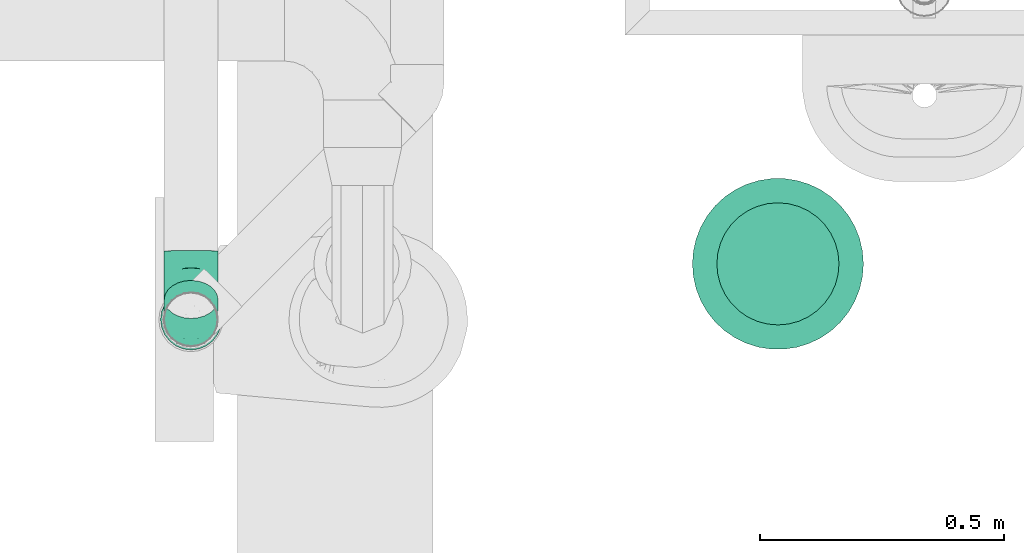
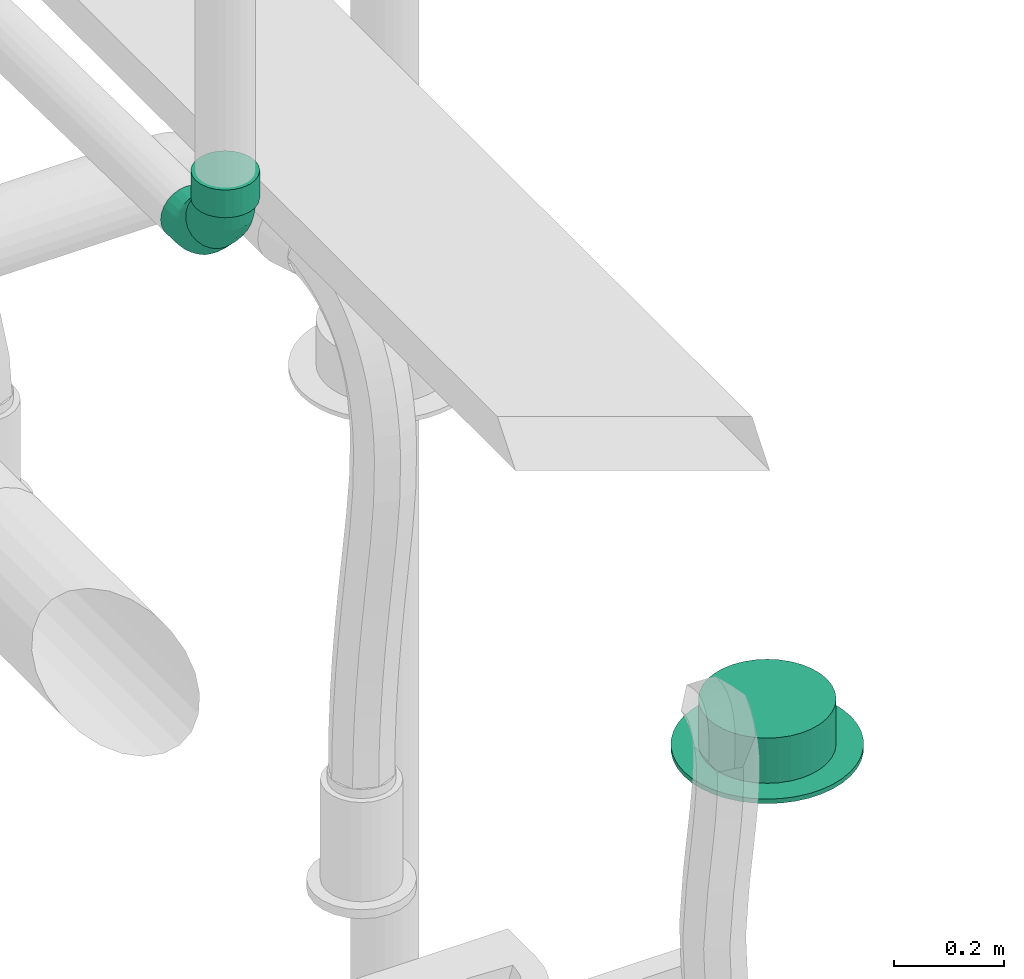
# One storey, part 123 of 374: 3 flow fittings, 1 distribution element.
"""IFC2X3 building model written with IfcOpenShell, lengths in metres."""

from ifc_helpers import new_model, si_unit, direction, frame, frame_2d, origin, place, context, subcontext, project, spatial, circle, extrude, open_shell, surface_model, source, transform, mapped, element, save


model = new_model("IFC2X3")

# Units and contexts
model_context = context("Model", 3, precision=1e-05, world=origin(), true_north=direction((-0.4480736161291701, 0.8939966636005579)))
body_context = subcontext(model_context, "Body", "Model", "MODEL_VIEW")
ifc_project = project(units=[si_unit("LENGTHUNIT", "METRE"), si_unit("AREAUNIT", "SQUARE_METRE"), si_unit("VOLUMEUNIT", "CUBIC_METRE"), si_unit("PLANEANGLEUNIT", "RADIAN"), si_unit("THERMODYNAMICTEMPERATUREUNIT", "KELVIN"), si_unit("MASSUNIT", "GRAM", prefix="KILO"), si_unit("TIMEUNIT", "SECOND")], contexts=[model_context])

# Site, building, storey
site_placement = place(None, origin())
site = spatial("IfcSite", under=ifc_project, at=site_placement, Name="Site 1", CompositionType="ELEMENT")
building_placement = place(site_placement, origin())
building = spatial("IfcBuilding", under=site, at=building_placement, Name="Undefined", CompositionType="ELEMENT")
storey_placement = place(building_placement, origin())
storey = spatial("IfcBuildingStorey", under=building, at=storey_placement, Name="Rez de chauss\x8ee", CompositionType="ELEMENT", Elevation=0.0)

# Flow fittings
shared_shape_1 = source(origin(), body_context, "Body", "SurfaceModel", [
    surface_model("IfcFaceBasedSurfaceModel", [(0.0, 0.0163157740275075, 0.0), (0.0, 0.0, 0.0), (0.06130000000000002, 0.0, 0.0), (0.06130000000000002, 0.0163157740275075, 0.0), (0.0, -0.015759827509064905, -0.004222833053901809), (0.06130000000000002, -0.015759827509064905, -0.004222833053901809), (0.0, -0.029889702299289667, -0.012380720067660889), (0.06130000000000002, -0.029889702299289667, -0.012380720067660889), (0.0, -0.04142669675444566, -0.02391771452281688), (0.06130000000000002, -0.04142669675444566, -0.02391771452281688), (0.0, -0.04958458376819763, -0.038047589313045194), (0.06130000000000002, -0.04958458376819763, -0.038047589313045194), (0.0, -0.053807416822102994, -0.053807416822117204), (0.06130000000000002, -0.053807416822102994, -0.053807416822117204), (0.0, -0.053807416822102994, -0.07012319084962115), (0.06130000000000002, -0.053807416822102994, -0.07012319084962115), (0.0, -0.04958458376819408, -0.08588301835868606), (0.06130000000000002, -0.04958458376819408, -0.08588301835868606), (0.0, -0.04142669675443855, -0.10001289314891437), (0.06130000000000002, -0.04142669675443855, -0.10001289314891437), (0.0, -0.02988970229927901, -0.11154988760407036), (0.06130000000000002, -0.02988970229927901, -0.11154988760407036), (0.0, -0.015759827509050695, -0.11970777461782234), (0.06130000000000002, -0.015759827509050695, -0.11970777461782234), (0.0, 1.4210854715e-14, -0.12393060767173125), (0.06130000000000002, 1.4210854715e-14, -0.12393060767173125), (0.0, 0.016315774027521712, -0.12393060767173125), (0.06130000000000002, 0.016315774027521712, -0.12393060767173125), (0.0, 0.03207560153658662, -0.11970777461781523), (0.06130000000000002, 0.03207560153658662, -0.11970777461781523), (0.0, 0.04620547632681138, -0.11154988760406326), (0.06130000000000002, 0.04620547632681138, -0.11154988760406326), (0.0, 0.05774247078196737, -0.10001289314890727), (0.06130000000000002, 0.05774247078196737, -0.10001289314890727), (0.0, 0.06590035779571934, -0.08588301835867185), (0.06130000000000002, 0.06590035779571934, -0.08588301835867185), (0.0, 0.0701231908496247, -0.07012319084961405), (0.06130000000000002, 0.0701231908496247, -0.07012319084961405), (0.0, 0.0701231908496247, -0.05380741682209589), (0.06130000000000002, 0.0701231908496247, -0.05380741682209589), (0.0, 0.06590035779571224, -0.03804758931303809), (0.06130000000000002, 0.06590035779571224, -0.03804758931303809), (0.0, 0.05774247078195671, -0.023917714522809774), (0.06130000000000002, 0.05774247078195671, -0.023917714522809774), (0.0, 0.04620547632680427, -0.012380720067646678), (0.06130000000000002, 0.04620547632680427, -0.012380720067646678), (0.0, 0.03207560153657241, -0.004222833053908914), (0.06130000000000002, 0.03207560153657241, -0.004222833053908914), (0.0, 0.00815788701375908, -0.06196530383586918), (0.06130000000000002, 0.00815788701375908, -0.06196530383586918)], [open_shell([[[0, 1, 2, 3]], [[1, 4, 5, 2]], [[4, 6, 7, 5]], [[6, 8, 9, 7]], [[8, 10, 11, 9]], [[10, 12, 13, 11]], [[12, 14, 15, 13]], [[14, 16, 17, 15]], [[16, 18, 19, 17]], [[18, 20, 21, 19]], [[20, 22, 23, 21]], [[22, 24, 25, 23]], [[24, 26, 27, 25]], [[26, 28, 29, 27]], [[28, 30, 31, 29]], [[30, 32, 33, 31]], [[32, 34, 35, 33]], [[34, 36, 37, 35]], [[36, 38, 39, 37]], [[38, 40, 41, 39]], [[40, 42, 43, 41]], [[42, 44, 45, 43]], [[44, 46, 47, 45]], [[46, 0, 3, 47]], [[48, 1, 0]], [[48, 4, 1]], [[48, 6, 4]], [[48, 8, 6]], [[48, 10, 8]], [[48, 12, 10]], [[48, 14, 12]], [[48, 16, 14]], [[48, 18, 16]], [[48, 20, 18]], [[48, 22, 20]], [[48, 24, 22]], [[48, 26, 24]], [[48, 28, 26]], [[48, 30, 28]], [[48, 32, 30]], [[48, 34, 32]], [[48, 36, 34]], [[48, 38, 36]], [[48, 40, 38]], [[48, 42, 40]], [[48, 44, 42]], [[48, 46, 44]], [[48, 0, 46]], [[49, 47, 3]], [[49, 45, 47]], [[49, 43, 45]], [[49, 41, 43]], [[49, 39, 41]], [[49, 37, 39]], [[49, 35, 37]], [[49, 33, 35]], [[49, 31, 33]], [[49, 29, 31]], [[49, 27, 29]], [[49, 25, 27]], [[49, 23, 25]], [[49, 21, 23]], [[49, 19, 21]], [[49, 17, 19]], [[49, 15, 17]], [[49, 13, 15]], [[49, 11, 13]], [[49, 9, 11]], [[49, 7, 9]], [[49, 5, 7]], [[49, 2, 5]], [[49, 3, 2]]])]),
])
flow_fitting_1_placement = place(storey_placement, origin())
element("IfcFlowFitting", 1, at=flow_fitting_1_placement, inside=storey, Name="PE-HD manchon électro soudable", ObjectType="PE-HD manchon électro soudable", context=body_context, shape_type="MappedRepresentation", body=[
    mapped(shared_shape_1, transform((57.13437036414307, 11.327176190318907, 4.198363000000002), x_axis=(0.0, 0.0, 1.0), y_axis=(0.13052619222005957, -0.9914448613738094, 0.0), z_axis=(0.9914448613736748, 0.13052619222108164, 0.0))),
])
shared_shape_2 = source(origin(), body_context, "Body", "SurfaceModel", [
    surface_model("IfcFaceBasedSurfaceModel", [(0.0, 0.014357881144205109, -3.552713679e-15), (0.0, 0.0, 0.0), (0.03509999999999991, 1.776356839e-15, -1.776356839e-15), (0.03509999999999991, 0.014357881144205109, 0.0), (0.0, -0.01386864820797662, -0.0037160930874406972), (0.035100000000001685, -0.01386864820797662, -0.003716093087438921), (0.0, -0.026302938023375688, -0.010895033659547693), (0.03509999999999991, -0.026302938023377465, -0.010895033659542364), (0.0, -0.03645549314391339, -0.021047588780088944), (0.035100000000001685, -0.03645549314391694, -0.021047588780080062), (0.0, -0.04363443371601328, -0.033481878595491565), (0.035100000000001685, -0.043634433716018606, -0.03348187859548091), (0.0, -0.04735052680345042, -0.04735052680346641), (0.03510000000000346, -0.04735052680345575, -0.04735052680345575), (0.0, -0.04735052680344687, -0.06170840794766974), (0.035100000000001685, -0.047350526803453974, -0.061708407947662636), (0.0, -0.04363443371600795, -0.07557705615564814), (0.035100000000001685, -0.04363443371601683, -0.07557705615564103), (0.0, -0.03645549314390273, -0.08801134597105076), (0.035100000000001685, -0.03645549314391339, -0.08801134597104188), (0.0, -0.026302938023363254, -0.0981639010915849), (0.03510000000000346, -0.026302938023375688, -0.09816390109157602), (0.0, -0.013868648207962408, -0.1053428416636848), (0.03510000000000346, -0.013868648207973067, -0.10534284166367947), (0.0, 1.5987211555e-14, -0.10905893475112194), (0.03510000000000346, 5.329070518e-15, -0.10905893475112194), (0.0, 0.014357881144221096, -0.10905893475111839), (0.035100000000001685, 0.014357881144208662, -0.10905893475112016), (0.0, 0.028226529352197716, -0.10534284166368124), (0.03510000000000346, 0.02822652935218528, -0.10534284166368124), (0.0, 0.040660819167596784, -0.0981639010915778), (0.03510000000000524, 0.040660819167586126, -0.09816390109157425), (0.0, 0.05081337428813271, -0.08801134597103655), (0.035100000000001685, 0.050813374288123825, -0.08801134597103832), (0.0, 0.05799231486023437, -0.07557705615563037), (0.035100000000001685, 0.05799231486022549, -0.07557705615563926), (0.0, 0.06170840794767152, -0.06170840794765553), (0.035100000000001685, 0.06170840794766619, -0.06170840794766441), (0.0, 0.061708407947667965, -0.0473505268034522), (0.035100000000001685, 0.061708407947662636, -0.0473505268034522), (0.0, 0.05799231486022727, -0.033481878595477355), (0.03510000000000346, 0.057992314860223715, -0.033481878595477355), (0.0, 0.050813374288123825, -0.021047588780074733), (0.035100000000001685, 0.05081337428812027, -0.021047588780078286), (0.0, 0.04066081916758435, -0.010895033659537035), (0.035100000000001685, 0.040660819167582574, -0.010895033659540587), (0.0, 0.028226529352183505, -0.0037160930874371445), (0.035100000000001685, 0.028226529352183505, -0.003716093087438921), (0.06308504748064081, -0.04369774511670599, -0.06218930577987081), (0.06357009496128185, -0.04363443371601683, -0.04783975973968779), (0.08916296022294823, -0.03298833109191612, -0.0635992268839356), (0.09010000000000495, -0.032739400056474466, -0.04927411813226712), (0.11155657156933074, -0.015952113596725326, -0.06584208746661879), (0.11288174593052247, -0.015407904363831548, -0.051555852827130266), (0.061662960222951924, -0.040167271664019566, -0.07603351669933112), (0.08641569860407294, -0.030002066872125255, -0.07737179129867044), (0.10767135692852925, -0.013831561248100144, -0.07950067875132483), (0.05940074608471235, -0.03328360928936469, -0.08842893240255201), (0.08204543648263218, -0.023984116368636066, -0.0896532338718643), (0.10149087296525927, -0.009190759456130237, -0.09160081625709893), (0.05645257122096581, -0.02351586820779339, -0.09853082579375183), (0.07635000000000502, -0.015344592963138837, -0.09960659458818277), (0.09343630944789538, -0.0023459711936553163, -0.10131789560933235), (0.053019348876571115, -0.011529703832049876, -0.1056507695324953), (0.06971752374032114, -0.004672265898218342, -0.10655356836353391), (0.08405657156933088, 0.006236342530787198, -0.10798971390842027), (0.049335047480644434, 0.0018580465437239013, -0.10930355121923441), (0.06260000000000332, 0.007305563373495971, -0.1100207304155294), (0.07399087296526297, 0.015971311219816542, -0.11116159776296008), (0.0456507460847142, 0.015735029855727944, -0.1092402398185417), (0.05548247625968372, 0.01977262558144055, -0.10977179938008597), (0.0639251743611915, 0.0261955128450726, -0.11061738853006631), (0.042217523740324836, 0.029155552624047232, -0.10546514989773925), (0.04885000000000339, 0.03187931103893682, -0.10582373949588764), (0.05454543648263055, 0.03621218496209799, -0.10639417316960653), (0.03926934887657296, 0.04120502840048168, -0.09823554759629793), (0.043154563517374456, 0.04280056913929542, -0.09844560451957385), (0.046490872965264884, 0.045338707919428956, -0.09877975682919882), (0.03700713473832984, 0.05106230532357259, -0.08804411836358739), (0.03878430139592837, 0.05179213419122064, -0.08814020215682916), (0.04031038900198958, 0.052953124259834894, -0.08829304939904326), (0.03558504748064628, 0.058055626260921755, -0.07558539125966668), (0.03603703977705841, 0.0582412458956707, -0.07560982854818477), (0.03642517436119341, 0.05853652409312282, -0.07564870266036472), (0.035585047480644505, 0.0617717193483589, -0.047358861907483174), (0.036037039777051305, 0.0619573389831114, -0.04738329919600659), (0.03642517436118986, 0.06225261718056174, -0.04742217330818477), (0.037007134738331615, 0.05824124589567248, -0.03351465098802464), (0.03878430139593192, 0.05897107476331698, -0.03361073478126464), (0.04031038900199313, 0.06013206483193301, -0.03376358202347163), (0.039269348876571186, 0.05135758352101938, -0.02111923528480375), (0.04315456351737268, 0.05295312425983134, -0.021329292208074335), (0.046490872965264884, 0.05549126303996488, -0.021663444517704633), (0.04221752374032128, 0.041589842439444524, -0.01101734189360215), (0.04884999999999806, 0.044313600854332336, -0.011375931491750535), (0.054545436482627, 0.04864647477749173, -0.01194636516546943), (0.04565074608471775, 0.029603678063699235, -0.003897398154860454), (0.05548247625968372, 0.03364127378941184, -0.004428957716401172), (0.0639251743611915, 0.040064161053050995, -0.005274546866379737), (0.04933504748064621, 0.016215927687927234, -0.0002446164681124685), (0.06260000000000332, 0.021663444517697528, -0.000961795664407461), (0.07399087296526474, 0.030329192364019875, -0.002102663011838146), (0.05301934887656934, 0.0023389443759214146, -0.0003079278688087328), (0.06971752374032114, 0.009196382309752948, -0.0012107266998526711), (0.08405657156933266, 0.020104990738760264, -0.0026468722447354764), (0.05645257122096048, -0.011081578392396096, -0.004083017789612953), (0.0763499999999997, -0.002910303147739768, -0.0051587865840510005), (0.09343630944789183, 0.010088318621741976, -0.006870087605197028), (0.059400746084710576, -0.023131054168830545, -0.011312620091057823), (0.08204543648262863, -0.01383156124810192, -0.012536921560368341), (0.1014908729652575, 0.0009617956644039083, -0.01448450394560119), (0.0616629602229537, -0.032988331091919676, -0.021504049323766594), (0.0864156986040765, -0.022823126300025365, -0.022842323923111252), (0.10767135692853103, -0.006652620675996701, -0.024971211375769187), (0.06308504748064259, -0.03998165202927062, -0.033962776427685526), (0.08916296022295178, -0.02927223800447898, -0.035372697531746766), (0.1115565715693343, -0.012236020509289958, -0.03761555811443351), (0.1363760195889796, 0.008655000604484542, -0.06908167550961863), (0.13770119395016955, 0.00919920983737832, -0.05479544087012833), (0.13249080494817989, 0.0107755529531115, -0.08274026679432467), (0.12631032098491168, 0.01541635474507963, -0.09484040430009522), (0.11825575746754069, 0.02226114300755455, -0.10455748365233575), (0.1088760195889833, 0.03084345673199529, -0.11122930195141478), (0.09881032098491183, 0.04057842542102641, -0.11440118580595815), (0.08874462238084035, 0.05080262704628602, -0.11385697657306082), (0.07936488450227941, 0.06081929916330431, -0.10963376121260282), (0.07131032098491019, 0.0699458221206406, -0.10201934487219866), (0.06512983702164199, 0.07756023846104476, -0.09153263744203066), (0.06124462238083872, 0.08314363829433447, -0.07888829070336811), (0.059919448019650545, 0.08631552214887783, -0.0649479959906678), (0.06124462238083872, 0.08685973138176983, -0.05066176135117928), (0.06512983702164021, 0.08473917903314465, -0.03700317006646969), (0.07131032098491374, 0.08009837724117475, -0.024903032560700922), (0.07936488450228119, 0.07325358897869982, -0.015185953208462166), (0.0887446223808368, 0.06467127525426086, -0.008514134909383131), (0.09881032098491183, 0.05493630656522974, -0.005342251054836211), (0.10887601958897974, 0.04471210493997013, -0.0058864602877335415), (0.11825575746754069, 0.03469543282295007, -0.010109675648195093), (0.1263103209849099, 0.02556890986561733, -0.017724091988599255), (0.13249080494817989, 0.017954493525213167, -0.0282107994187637), (0.13637601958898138, 0.012371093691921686, -0.04085514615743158)], [open_shell([[[0, 1, 2, 3]], [[1, 4, 5, 2]], [[4, 6, 7, 5]], [[6, 8, 9, 7]], [[8, 10, 11, 9]], [[10, 12, 13, 11]], [[12, 14, 15, 13]], [[14, 16, 17, 15]], [[16, 18, 19, 17]], [[18, 20, 21, 19]], [[20, 22, 23, 21]], [[22, 24, 25, 23]], [[24, 26, 27, 25]], [[26, 28, 29, 27]], [[28, 30, 31, 29]], [[30, 32, 33, 31]], [[32, 34, 35, 33]], [[34, 36, 37, 35]], [[36, 38, 39, 37]], [[38, 40, 41, 39]], [[40, 42, 43, 41]], [[42, 44, 45, 43]], [[44, 46, 47, 45]], [[46, 0, 3, 47]], [[13, 15, 48, 49]], [[49, 48, 50, 51]], [[51, 50, 52, 53]], [[15, 17, 54, 48]], [[48, 54, 55, 50]], [[50, 55, 56, 52]], [[17, 19, 57, 54]], [[54, 57, 58, 55]], [[55, 58, 59, 56]], [[19, 21, 60, 57]], [[57, 60, 61, 58]], [[58, 61, 62, 59]], [[21, 23, 63, 60]], [[60, 63, 64, 61]], [[61, 64, 65, 62]], [[23, 25, 66, 63]], [[63, 66, 67, 64]], [[64, 67, 68, 65]], [[25, 27, 69, 66]], [[66, 69, 70, 67]], [[67, 70, 71, 68]], [[27, 29, 72, 69]], [[69, 72, 73, 70]], [[70, 73, 74, 71]], [[29, 31, 75, 72]], [[72, 75, 76, 73]], [[73, 76, 77, 74]], [[31, 33, 78, 75]], [[75, 78, 79, 76]], [[76, 79, 80, 77]], [[33, 35, 81, 78]], [[78, 81, 82, 79]], [[79, 82, 83, 80]], [[35, 37, 81]], [[81, 37, 82]], [[82, 37, 83]], [[37, 39, 84]], [[37, 84, 85]], [[37, 85, 86]], [[39, 41, 87, 84]], [[84, 87, 88, 85]], [[85, 88, 89, 86]], [[41, 43, 90, 87]], [[87, 90, 91, 88]], [[88, 91, 92, 89]], [[43, 45, 93, 90]], [[90, 93, 94, 91]], [[91, 94, 95, 92]], [[45, 47, 96, 93]], [[93, 96, 97, 94]], [[94, 97, 98, 95]], [[47, 3, 99, 96]], [[96, 99, 100, 97]], [[97, 100, 101, 98]], [[3, 2, 102, 99]], [[99, 102, 103, 100]], [[100, 103, 104, 101]], [[2, 5, 105, 102]], [[102, 105, 106, 103]], [[103, 106, 107, 104]], [[5, 7, 108, 105]], [[105, 108, 109, 106]], [[106, 109, 110, 107]], [[7, 9, 111, 108]], [[108, 111, 112, 109]], [[109, 112, 113, 110]], [[9, 11, 114, 111]], [[111, 114, 115, 112]], [[112, 115, 116, 113]], [[11, 13, 49, 114]], [[114, 49, 51, 115]], [[115, 51, 53, 116]], [[53, 52, 117, 118]], [[52, 56, 119, 117]], [[56, 59, 120, 119]], [[59, 62, 121, 120]], [[62, 65, 122, 121]], [[65, 68, 123, 122]], [[68, 71, 124, 123]], [[71, 74, 125, 124]], [[74, 77, 126, 125]], [[77, 80, 127, 126]], [[80, 83, 128, 127]], [[83, 37, 129, 128]], [[37, 86, 130, 129]], [[86, 89, 131, 130]], [[89, 92, 132, 131]], [[92, 95, 133, 132]], [[95, 98, 134, 133]], [[98, 101, 135, 134]], [[101, 104, 136, 135]], [[104, 107, 137, 136]], [[107, 110, 138, 137]], [[110, 113, 139, 138]], [[113, 116, 140, 139]], [[116, 53, 118, 140]]])]),
])
flow_fitting_2_placement = place(storey_placement, origin())
element("IfcFlowFitting", 2, at=flow_fitting_2_placement, inside=storey, Name="PE-HD coude 45°", ObjectType="PE-HD coude 45°", context=body_context, shape_type="MappedRepresentation", body=[
    mapped(shared_shape_2, transform((57.0208740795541, 11.341862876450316, 4.116486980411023), x_axis=(-8.6595606e-17, -0.7071067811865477, 0.7071067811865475), y_axis=(-0.13052619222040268, 0.701057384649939, 0.7010573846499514), z_axis=(-0.9914448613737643, -0.09229595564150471, -0.09229595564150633))),
])
shared_shape_3 = source(origin(), body_context, "Body", "SurfaceModel", [
    surface_model("IfcFaceBasedSurfaceModel", [(0.0, 0.014357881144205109, -3.552713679e-15), (0.0, 0.0, 0.0), (0.0359000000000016, 1.776356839e-15, 0.0), (0.035900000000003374, 0.014357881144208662, 0.0), (0.0, -0.01386864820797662, -0.0037160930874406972), (0.035900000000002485, -0.01386864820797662, -0.003716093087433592), (0.0, -0.026302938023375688, -0.010895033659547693), (0.0359000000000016, -0.026302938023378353, -0.010895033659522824), (0.0, -0.03645549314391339, -0.021047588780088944), (0.035900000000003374, -0.03645549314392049, -0.021047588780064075), (0.0, -0.04363443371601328, -0.033481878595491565), (0.0359000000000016, -0.04363443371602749, -0.03348187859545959), (0.0, -0.04735052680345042, -0.04735052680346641), (0.035900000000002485, -0.04735052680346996, -0.04735052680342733), (0.0, -0.04735052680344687, -0.06170840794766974), (0.0359000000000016, -0.04735052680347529, -0.06170840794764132), (0.0, -0.04363443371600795, -0.07557705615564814), (0.035900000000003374, -0.0436344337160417, -0.07557705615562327), (0.0, -0.03645549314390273, -0.08801134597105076), (0.0359000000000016, -0.03645549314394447, -0.08801134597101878), (0.0, -0.026302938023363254, -0.0981639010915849), (0.035900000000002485, -0.02630293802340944, -0.09816390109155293), (0.0, -0.013868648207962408, -0.1053428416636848), (0.0359000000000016, -0.013868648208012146, -0.10534284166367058), (0.0, 1.5987211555e-14, -0.10905893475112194), (0.035900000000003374, -3.5527136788e-14, -0.10905893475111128), (0.0, 0.014357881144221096, -0.10905893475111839), (0.03590000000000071, 0.014357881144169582, -0.10905893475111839), (0.0, 0.028226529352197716, -0.10534284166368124), (0.0359000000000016, 0.028226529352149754, -0.1053428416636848), (0.0, 0.040660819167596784, -0.0981639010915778), (0.0359000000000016, 0.0406608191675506, -0.09816390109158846), (0.0, 0.05081337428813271, -0.08801134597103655), (0.0359000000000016, 0.05081337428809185, -0.08801134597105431), (0.0, 0.05799231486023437, -0.07557705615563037), (0.0359000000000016, 0.05799231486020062, -0.07557705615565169), (0.0, 0.06170840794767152, -0.06170840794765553), (0.035900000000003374, 0.061708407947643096, -0.06170840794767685), (0.0, 0.061708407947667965, -0.0473505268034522), (0.0359000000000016, 0.061708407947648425, -0.04735052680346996), (0.0, 0.05799231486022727, -0.033481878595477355), (0.0359000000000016, 0.05799231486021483, -0.03348187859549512), (0.0, 0.050813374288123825, -0.021047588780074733), (0.0359000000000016, 0.05081337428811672, -0.021047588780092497), (0.0, 0.04066081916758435, -0.010895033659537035), (0.0359000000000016, 0.040660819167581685, -0.010895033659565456), (0.0, 0.028226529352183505, -0.0037160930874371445), (0.03590000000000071, 0.028226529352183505, -0.0037160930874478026), (0.06297256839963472, -0.04393592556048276, -0.06215794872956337), (0.06344180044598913, -0.04387674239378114, -0.04780785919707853), (0.08832048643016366, -0.033909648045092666, -0.06347793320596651), (0.08922905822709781, -0.03367668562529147, -0.049150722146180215), (0.11032897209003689, -0.017910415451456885, -0.06558427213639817), (0.11161900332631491, -0.01740014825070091, -0.051293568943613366), (0.061596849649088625, -0.04039334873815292, -0.07600375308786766), (0.0856566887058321, -0.03087656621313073, -0.07725666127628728), (0.10654679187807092, -0.015690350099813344, -0.07925596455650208), (0.05940839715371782, -0.033490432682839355, -0.08840170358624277), (0.08141919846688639, -0.0247841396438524, -0.08954790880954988), (0.10053021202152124, -0.010891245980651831, -0.09137694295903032), (0.05655635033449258, -0.02369759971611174, -0.09850690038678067), (0.07589679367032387, -0.016047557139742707, -0.09951404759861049), (0.0926892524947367, -0.003840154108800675, -0.10112118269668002), (0.05323507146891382, -0.01168221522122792, -0.10563069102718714), (0.06946581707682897, -0.005262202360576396, -0.10647590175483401), (0.08355826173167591, 0.0049824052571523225, -0.10782462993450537), (0.04967090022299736, 0.0017368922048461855, -0.10928760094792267), (0.0625645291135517, 0.006836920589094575, -0.10995903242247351), (0.07375950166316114, 0.014975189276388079, -0.11103045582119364), (0.04610672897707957, 0.015645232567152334, -0.1092284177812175), (0.055663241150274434, 0.019425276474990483, -0.10972607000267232), (0.06396074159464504, 0.025457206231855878, -0.11052018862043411), (0.04278545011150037, 0.02909497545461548, -0.10545717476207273), (0.04923226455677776, 0.03164498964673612, -0.1057928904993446), (0.05482975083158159, 0.03571412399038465, -0.1063286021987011), (0.03993340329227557, 0.04116954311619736, -0.09823087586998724), (0.04370985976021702, 0.04266330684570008, -0.09842753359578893), (0.04698879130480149, 0.04504695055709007, -0.09874134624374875), (0.037744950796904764, 0.05104607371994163, -0.08804198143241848), (0.03947236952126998, 0.05172934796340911, -0.08813193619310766), (0.04097221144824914, 0.052819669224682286, -0.08827547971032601), (0.036369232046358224, 0.058051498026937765, -0.0755848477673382), (0.036808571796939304, 0.05822527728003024, -0.07560772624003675), (0.037190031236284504, 0.05850258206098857, -0.07564423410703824), (0.036369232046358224, 0.061767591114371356, -0.04735831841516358), (0.036808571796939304, 0.061941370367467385, -0.04738119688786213), (0.037190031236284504, 0.062218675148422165, -0.04741770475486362), (0.037744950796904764, 0.05822501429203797, -0.03351251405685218), (0.03947236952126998, 0.058908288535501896, -0.033602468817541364), (0.04097221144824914, 0.059998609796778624, -0.03374601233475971), (0.03993340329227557, 0.05132209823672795, -0.02111456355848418), (0.04370985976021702, 0.05281586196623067, -0.021311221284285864), (0.04698879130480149, 0.05519950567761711, -0.021625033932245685), (0.04278545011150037, 0.04152926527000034, -0.011009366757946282), (0.04923226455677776, 0.04407927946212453, -0.01134508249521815), (0.05482975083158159, 0.04814841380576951, -0.011880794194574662), (0.04610672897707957, 0.029513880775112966, -0.003885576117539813), (0.055663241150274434, 0.03329392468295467, -0.004383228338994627), (0.06396074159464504, 0.03932585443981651, -0.005177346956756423), (0.04967090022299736, 0.016094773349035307, -0.00022866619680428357), (0.0625645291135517, 0.021194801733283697, -0.0009000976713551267), (0.07375950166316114, 0.029333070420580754, -0.001971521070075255), (0.05323507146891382, 0.0021864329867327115, -0.00028784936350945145), (0.06946581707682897, 0.008606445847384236, -0.0011330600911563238), (0.08355826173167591, 0.018851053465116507, -0.0024817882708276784), (0.05655635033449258, -0.011263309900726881, -0.004059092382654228), (0.07589679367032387, -0.0036132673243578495, -0.0050662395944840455), (0.0926892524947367, 0.008594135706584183, -0.006673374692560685), (0.05940839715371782, -0.023337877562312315, -0.011285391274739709), (0.08141919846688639, -0.014631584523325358, -0.012431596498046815), (0.10053021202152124, -0.000738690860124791, -0.01426063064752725), (0.061596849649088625, -0.033214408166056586, -0.021474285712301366), (0.0856566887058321, -0.023697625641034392, -0.022727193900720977), (0.10654679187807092, -0.008511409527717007, -0.02472649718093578), (0.06297256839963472, -0.040219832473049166, -0.03393141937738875), (0.08832048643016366, -0.030193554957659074, -0.035251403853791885), (0.11032897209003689, -0.014194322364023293, -0.03735774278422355), (0.13636991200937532, 0.006590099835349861, -0.06880982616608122), (0.13765994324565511, 0.007100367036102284, -0.054519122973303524), (0.13258773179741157, 0.008810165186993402, -0.08248151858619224), (0.1265711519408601, 0.013609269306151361, -0.09460249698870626), (0.11873019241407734, 0.02066036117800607, -0.10434673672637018), (0.10959920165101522, 0.029482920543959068, -0.11105018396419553), (0.09980044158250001, 0.03947570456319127, -0.1142560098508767), (0.09000168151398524, 0.04995772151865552, -0.11374574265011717), (0.08087069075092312, 0.06021463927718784, -0.10955415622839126), (0.07302973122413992, 0.06954746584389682, -0.1019669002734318), (0.0670131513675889, 0.07732018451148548, -0.09150103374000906), (0.06323097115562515, 0.08300309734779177, -0.0788697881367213), (0.061940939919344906, 0.08620892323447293, -0.06493396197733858), (0.06323097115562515, 0.08671919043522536, -0.050643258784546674), (0.0670131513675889, 0.08449912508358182, -0.036971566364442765), (0.07302973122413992, 0.07970002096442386, -0.02485058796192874), (0.08087069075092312, 0.0726489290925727, -0.01510634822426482), (0.09000168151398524, 0.06382636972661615, -0.008402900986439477), (0.09980044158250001, 0.053833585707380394, -0.005197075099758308), (0.10959920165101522, 0.0433515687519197, -0.005707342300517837), (0.11873019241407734, 0.03309465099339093, -0.009898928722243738), (0.1265711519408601, 0.023761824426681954, -0.017486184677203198), (0.13258773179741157, 0.015989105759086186, -0.02795205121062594), (0.13636991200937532, 0.010306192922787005, -0.0405832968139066)], [open_shell([[[0, 1, 2, 3]], [[1, 4, 5, 2]], [[4, 6, 7, 5]], [[6, 8, 9, 7]], [[8, 10, 11, 9]], [[10, 12, 13, 11]], [[12, 14, 15, 13]], [[14, 16, 17, 15]], [[16, 18, 19, 17]], [[18, 20, 21, 19]], [[20, 22, 23, 21]], [[22, 24, 25, 23]], [[24, 26, 27, 25]], [[26, 28, 29, 27]], [[28, 30, 31, 29]], [[30, 32, 33, 31]], [[32, 34, 35, 33]], [[34, 36, 37, 35]], [[36, 38, 39, 37]], [[38, 40, 41, 39]], [[40, 42, 43, 41]], [[42, 44, 45, 43]], [[44, 46, 47, 45]], [[46, 0, 3, 47]], [[13, 15, 48, 49]], [[49, 48, 50, 51]], [[51, 50, 52, 53]], [[15, 17, 54, 48]], [[48, 54, 55, 50]], [[50, 55, 56, 52]], [[17, 19, 57, 54]], [[54, 57, 58, 55]], [[55, 58, 59, 56]], [[19, 21, 60, 57]], [[57, 60, 61, 58]], [[58, 61, 62, 59]], [[21, 23, 63, 60]], [[60, 63, 64, 61]], [[61, 64, 65, 62]], [[23, 25, 66, 63]], [[63, 66, 67, 64]], [[64, 67, 68, 65]], [[25, 27, 69, 66]], [[66, 69, 70, 67]], [[67, 70, 71, 68]], [[27, 29, 72, 69]], [[69, 72, 73, 70]], [[70, 73, 74, 71]], [[29, 31, 75, 72]], [[72, 75, 76, 73]], [[73, 76, 77, 74]], [[31, 33, 78, 75]], [[75, 78, 79, 76]], [[76, 79, 80, 77]], [[33, 35, 81, 78]], [[78, 81, 82, 79]], [[79, 82, 83, 80]], [[35, 37, 81]], [[81, 37, 82]], [[82, 37, 83]], [[37, 39, 84]], [[37, 84, 85]], [[37, 85, 86]], [[39, 41, 87, 84]], [[84, 87, 88, 85]], [[85, 88, 89, 86]], [[41, 43, 90, 87]], [[87, 90, 91, 88]], [[88, 91, 92, 89]], [[43, 45, 93, 90]], [[90, 93, 94, 91]], [[91, 94, 95, 92]], [[45, 47, 96, 93]], [[93, 96, 97, 94]], [[94, 97, 98, 95]], [[47, 3, 99, 96]], [[96, 99, 100, 97]], [[97, 100, 101, 98]], [[3, 2, 102, 99]], [[99, 102, 103, 100]], [[100, 103, 104, 101]], [[2, 5, 105, 102]], [[102, 105, 106, 103]], [[103, 106, 107, 104]], [[5, 7, 108, 105]], [[105, 108, 109, 106]], [[106, 109, 110, 107]], [[7, 9, 111, 108]], [[108, 111, 112, 109]], [[109, 112, 113, 110]], [[9, 11, 114, 111]], [[111, 114, 115, 112]], [[112, 115, 116, 113]], [[11, 13, 49, 114]], [[114, 49, 51, 115]], [[115, 51, 53, 116]], [[53, 52, 117, 118]], [[52, 56, 119, 117]], [[56, 59, 120, 119]], [[59, 62, 121, 120]], [[62, 65, 122, 121]], [[65, 68, 123, 122]], [[68, 71, 124, 123]], [[71, 74, 125, 124]], [[74, 77, 126, 125]], [[77, 80, 127, 126]], [[80, 83, 128, 127]], [[83, 37, 129, 128]], [[37, 86, 130, 129]], [[86, 89, 131, 130]], [[89, 92, 132, 131]], [[92, 95, 133, 132]], [[95, 98, 134, 133]], [[98, 101, 135, 134]], [[101, 104, 136, 135]], [[104, 107, 137, 136]], [[107, 110, 138, 137]], [[110, 113, 139, 138]], [[113, 116, 140, 139]], [[116, 53, 118, 140]]])]),
])
flow_fitting_3_placement = place(storey_placement, origin())
element("IfcFlowFitting", 3, at=flow_fitting_3_placement, inside=storey, Name="PE-HD coude 45°", ObjectType="PE-HD coude 45°", context=body_context, shape_type="MappedRepresentation", body=[
    mapped(shared_shape_3, transform((57.12712592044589, 11.341862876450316, 4.116486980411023), x_axis=(-5.23364153e-16, 0.7071067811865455, -0.7071067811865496), y_axis=(0.13052619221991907, 0.7010573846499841, 0.7010573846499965), z_axis=(0.9914448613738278, -0.09229595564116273, -0.09229595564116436))),
])

# Distribution element
distribution_element_placement = place(storey_placement, origin())
element("IfcDistributionElement", 4, at=distribution_element_placement, inside=storey, Name="Einbau-Downlight, 1-flammig", ObjectType="Einbau-Downlight, 1-flammig", context=body_context, shape_type="SweptSolid", body=[
    extrude(circle(Radius=0.17500000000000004, at=frame_2d((3.552713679e-15, 0.0), x_axis=(1.0, 0.0))), frame((58.275081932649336, 11.424734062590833, 2.5), z_axis=(0.0, 0.0, -1.0), x_axis=(1.0, 0.0, 0.0)), (0.0, 0.0, 1.0), 0.01),
    extrude(circle(Radius=0.125, at=frame_2d((3.552713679e-15, 0.0), x_axis=(1.0, 0.0))), frame((58.275081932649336, 11.424734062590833, 2.6000000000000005), z_axis=(0.0, 0.0, -1.0), x_axis=(1.0, 0.0, 0.0)), (0.0, 0.0, 1.0), 0.10000000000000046),
])

save(model, "model.ifc")
